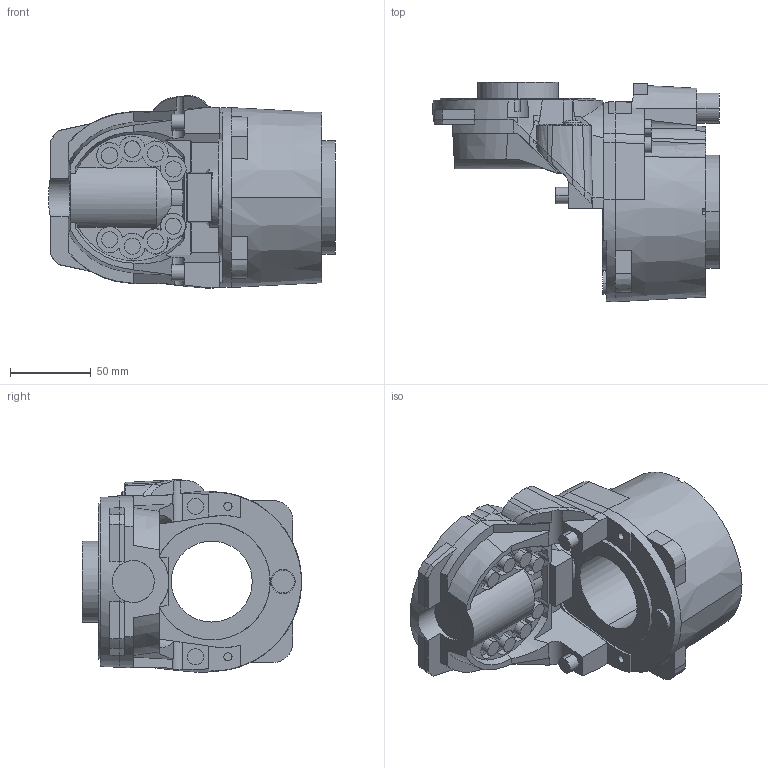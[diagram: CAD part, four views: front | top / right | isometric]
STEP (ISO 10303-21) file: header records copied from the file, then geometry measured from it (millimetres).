
FILE_DESCRIPTION (( 'STEP AP214' ), '1' );
FILE_NAME ('IRB2600ID_15kg-185_LINK5_CAD_rev02.STEP', '2016-12-02T13:00:05', ( 'ABB' ), ( 'ABB' ), 'SwSTEP 2.0', 'SolidWorks 2014', '' );
FILE_SCHEMA (( 'AUTOMOTIVE_DESIGN' ));
Length unit declared in the file: millimetre
Products named in the file (1): IRB2600ID_15kg-185_LINK5_CAD_rev02
Bounding box: 177.26 x 135.56 x 119.02 mm (x, y, z)
Volume: 912161.4 mm3; surface area: 101341 mm2
Topology: 1 solids, 1 shells, 345 faces, 932 edges, 613 vertices
Faces by surface type: plane 163, bspline 74, cylinder 71, cone 37
Entity records: 16907 total; most frequent: CARTESIAN_POINT 9063, ORIENTED_EDGE 1864, DIRECTION 1273, EDGE_CURVE 932, VERTEX_POINT 613, AXIS2_PLACEMENT_3D 487, EDGE_LOOP 371, B_SPLINE_CURVE_WITH_KNOTS 366
